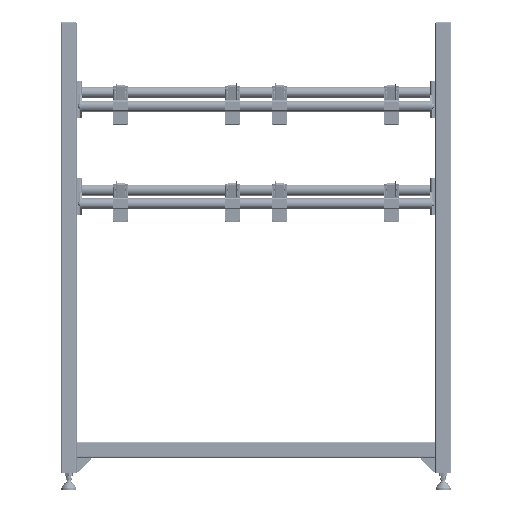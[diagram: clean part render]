
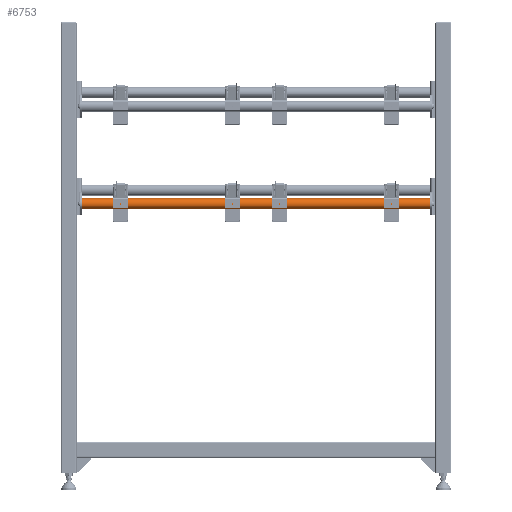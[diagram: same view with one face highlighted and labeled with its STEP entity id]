
A CAD part, front view. The second image highlights one B-rep face of the part: STEP entity #6753.
In plain terms, the highlighted cylindrical face has radius 14 mm (diameter 28 mm), a full revolution.
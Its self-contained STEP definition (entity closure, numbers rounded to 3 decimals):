
#6753=ADVANCED_FACE('',(#12876,#12877),#12878,.T.);
#12876=FACE_OUTER_BOUND('',#21113,.T.);
#12877=FACE_OUTER_BOUND('',#21114,.T.);
#12878=CYLINDRICAL_SURFACE('',#21115,14.0);
#21113=EDGE_LOOP('',(#31495));
#21114=EDGE_LOOP('',(#31496));
#21115=AXIS2_PLACEMENT_3D('',#31497,#31498,#31499);
#31495=ORIENTED_EDGE('',*,*,#53845,.T.);
#31496=ORIENTED_EDGE('',*,*,#53846,.T.);
#31497=CARTESIAN_POINT('',(50000.0,-582.5,734.0));
#31498=DIRECTION('',(-1.0,0.0,0.0));
#31499=DIRECTION('',(0.0,-1.0,0.0));
#53845=EDGE_CURVE('',#64305,#64305,#64306,.T.);
#53846=EDGE_CURVE('',#64307,#64307,#64308,.T.);
#64305=VERTEX_POINT('',#79798);
#64306=CIRCLE('',#79799,14.0);
#64307=VERTEX_POINT('',#79800);
#64308=CIRCLE('',#79801,14.0);
#79798=CARTESIAN_POINT('',(447.0,-596.5,734.0));
#79799=AXIS2_PLACEMENT_3D('',#100692,#100693,#100694);
#79800=CARTESIAN_POINT('',(-447.0,-582.5,720.0));
#79801=AXIS2_PLACEMENT_3D('',#100695,#100696,#100697);
#100692=CARTESIAN_POINT('',(447.0,-582.5,734.0));
#100693=DIRECTION('',(-1.0,0.,0.));
#100694=DIRECTION('',(0.,-1.0,0.0));
#100695=CARTESIAN_POINT('',(-447.0,-582.5,734.0));
#100696=DIRECTION('',(1.0,0.,0.));
#100697=DIRECTION('',(0.,0.0,-1.0));
